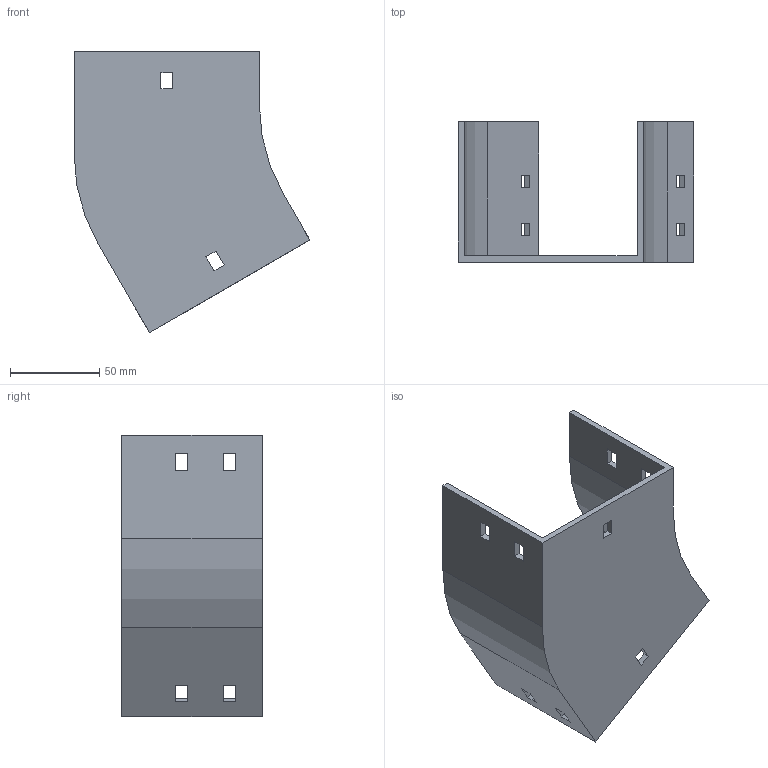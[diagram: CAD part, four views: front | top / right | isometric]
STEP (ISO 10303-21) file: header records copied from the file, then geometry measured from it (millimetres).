
FILE_DESCRIPTION (( 'STEP AP214' ), '1' );
FILE_NAME ('12F1C100.step', '2025-02-21T12:54:28', ( '' ), ( '' ), 'SwSTEP 2.0', 'SolidWorks 2023', '' );
FILE_SCHEMA (( 'AUTOMOTIVE_DESIGN' ));
Length unit declared in the file: millimetre
Products named in the file (1): 12F1C100
Bounding box: 132.4 x 79 x 157.98 mm (x, y, z)
Volume: 123230.4 mm3; surface area: 74353 mm2
Topology: 1 solids, 1 shells, 58 faces, 168 edges, 112 vertices
Faces by surface type: plane 54, cylinder 4
Entity records: 1943 total; most frequent: CARTESIAN_POINT 339, ORIENTED_EDGE 336, DIRECTION 294, EDGE_CURVE 168, VECTOR 160, LINE 160, VERTEX_POINT 112, EDGE_LOOP 78
